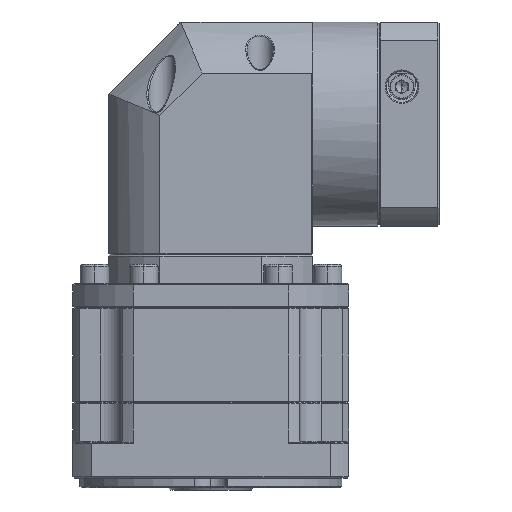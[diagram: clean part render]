
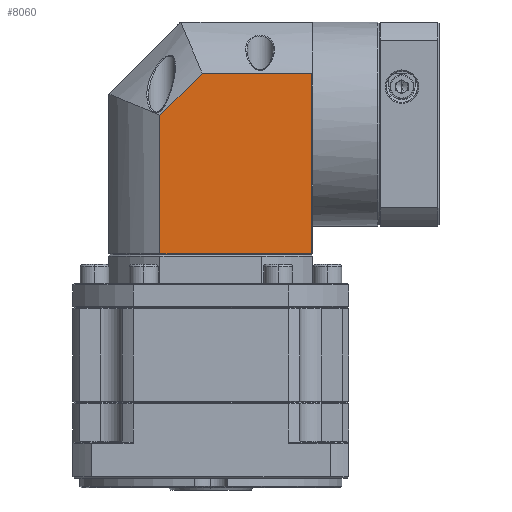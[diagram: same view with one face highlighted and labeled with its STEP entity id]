
A CAD part, front view. The second image highlights one B-rep face of the part: STEP entity #8060.
In plain terms, the highlighted planar face has unit normal (0, -1, 0).
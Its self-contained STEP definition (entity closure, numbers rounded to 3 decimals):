
#169 = EDGE_CURVE ( 'NONE', #134328, #116356, #84600, .T. ) ;
#8060 = ADVANCED_FACE ( 'NONE', ( #86971 ), #57961, .F. ) ;
#8769 = EDGE_LOOP ( 'NONE', ( #113314, #62713, #85212, #17631, #120206 ) ) ;
#11260 = LINE ( 'NONE', #108867, #93561 ) ;
#17631 = ORIENTED_EDGE ( 'NONE', *, *, #48596, .F. ) ;
#28081 = EDGE_CURVE ( 'NONE', #52233, #132214, #11260, .T. ) ;
#28900 = VECTOR ( 'NONE', #36159, 1000. ) ;
#33218 = LINE ( 'NONE', #127068, #84685 ) ;
#36159 = DIRECTION ( 'NONE',  ( 1., 0., 0. ) ) ;
#36557 = AXIS2_PLACEMENT_3D ( 'NONE', #102163, #113145, #124150 ) ;
#39976 = VECTOR ( 'NONE', #55081, 1000. ) ;
#46705 = CARTESIAN_POINT ( 'NONE',  ( 101.943, 51.472, 37.89 ) ) ;
#48596 = EDGE_CURVE ( 'NONE', #116356, #141638, #79272, .T. ) ;
#52233 = VERTEX_POINT ( 'NONE', #82615 ) ;
#55081 = DIRECTION ( 'NONE',  ( 0., 0., 1. ) ) ;
#56258 = CARTESIAN_POINT ( 'NONE',  ( 38.229, 51.472, -37.323 ) ) ;
#57961 = PLANE ( 'NONE',  #36557 ) ;
#58548 = VECTOR ( 'NONE', #84169, 1000. ) ;
#62713 = ORIENTED_EDGE ( 'NONE', *, *, #28081, .F. ) ;
#66332 = EDGE_CURVE ( 'NONE', #141638, #52233, #90703, .T. ) ;
#79272 = LINE ( 'NONE', #107244, #58548 ) ;
#82615 = CARTESIAN_POINT ( 'NONE',  ( 101.443, 51.472, 37.89 ) ) ;
#83963 = DIRECTION ( 'NONE',  ( 1., 0., 0. ) ) ;
#84169 = DIRECTION ( 'NONE',  ( 0.707, 0., 0.707 ) ) ;
#84600 = LINE ( 'NONE', #141402, #39976 ) ;
#84685 = VECTOR ( 'NONE', #83963, 1000. ) ;
#85212 = ORIENTED_EDGE ( 'NONE', *, *, #66332, .F. ) ;
#86971 = FACE_OUTER_BOUND ( 'NONE', #8769, .T. ) ;
#90703 = LINE ( 'NONE', #46705, #28900 ) ;
#93561 = VECTOR ( 'NONE', #138921, 1000. ) ;
#102163 = CARTESIAN_POINT ( 'NONE',  ( 101.943, 51.472, 59.177 ) ) ;
#107244 = CARTESIAN_POINT ( 'NONE',  ( 38.229, 51.472, 20.359 ) ) ;
#108867 = CARTESIAN_POINT ( 'NONE',  ( 101.443, 51.472, 59.177 ) ) ;
#113145 = DIRECTION ( 'NONE',  ( 0., 1., 0. ) ) ;
#113314 = ORIENTED_EDGE ( 'NONE', *, *, #136420, .T. ) ;
#116356 = VERTEX_POINT ( 'NONE', #121231 ) ;
#120206 = ORIENTED_EDGE ( 'NONE', *, *, #169, .F. ) ;
#121231 = CARTESIAN_POINT ( 'NONE',  ( 38.229, 51.472, 20.359 ) ) ;
#124150 = DIRECTION ( 'NONE',  ( -1., 0., 0. ) ) ;
#127068 = CARTESIAN_POINT ( 'NONE',  ( 101.943, 51.472, -37.323 ) ) ;
#128050 = CARTESIAN_POINT ( 'NONE',  ( 101.443, 51.472, -37.323 ) ) ;
#132214 = VERTEX_POINT ( 'NONE', #128050 ) ;
#132332 = CARTESIAN_POINT ( 'NONE',  ( 55.76, 51.472, 37.89 ) ) ;
#134328 = VERTEX_POINT ( 'NONE', #56258 ) ;
#136420 = EDGE_CURVE ( 'NONE', #134328, #132214, #33218, .T. ) ;
#138921 = DIRECTION ( 'NONE',  ( 0., 0., -1. ) ) ;
#141402 = CARTESIAN_POINT ( 'NONE',  ( 38.229, 51.472, 59.177 ) ) ;
#141638 = VERTEX_POINT ( 'NONE', #132332 ) ;
